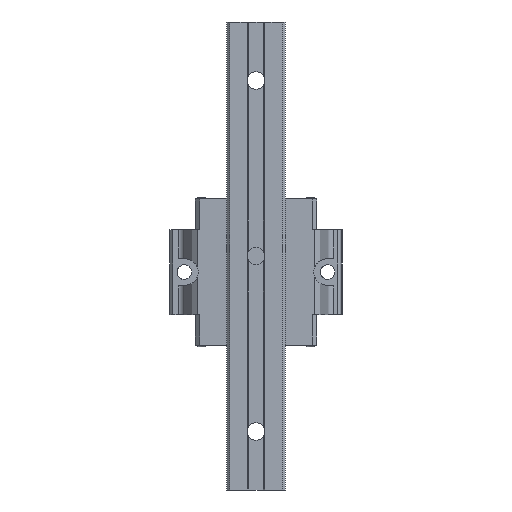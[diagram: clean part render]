
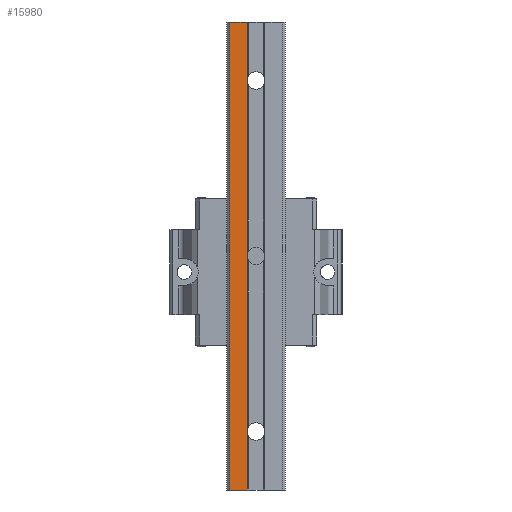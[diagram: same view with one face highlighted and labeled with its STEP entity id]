
A CAD part, front view. The second image highlights one B-rep face of the part: STEP entity #15980.
In plain terms, the highlighted planar face has unit normal (0, -1, 0).
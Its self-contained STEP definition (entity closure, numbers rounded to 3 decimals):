
#36 = EDGE_CURVE ( 'NONE', #8924, #16620, #2779, .T. ) ;
#240 = CARTESIAN_POINT ( 'NONE',  ( -9., -15.5, 100. ) ) ;
#688 = CARTESIAN_POINT ( 'NONE',  ( -3., -15.5, -30. ) ) ;
#923 = DIRECTION ( 'NONE',  ( 0., 0., 1. ) ) ;
#1278 = EDGE_LOOP ( 'NONE', ( #16929, #10708, #4716, #6605, #5688, #10895, #11669 ) ) ;
#1555 = CARTESIAN_POINT ( 'NONE',  ( -3., -15.5, 80. ) ) ;
#1690 = DIRECTION ( 'NONE',  ( 1., 0., 0. ) ) ;
#2122 = DIRECTION ( 'NONE',  ( 0., -1., 0. ) ) ;
#2351 = LINE ( 'NONE', #3709, #4295 ) ;
#2354 = CARTESIAN_POINT ( 'NONE',  ( -3., -15.5, 100. ) ) ;
#2779 = LINE ( 'NONE', #5878, #9983 ) ;
#3181 = VECTOR ( 'NONE', #7389, 1000. ) ;
#3330 = VERTEX_POINT ( 'NONE', #2354 ) ;
#3709 = CARTESIAN_POINT ( 'NONE',  ( -3., -15.5, -30. ) ) ;
#4143 = DIRECTION ( 'NONE',  ( 0., 0., -1. ) ) ;
#4295 = VECTOR ( 'NONE', #923, 1000. ) ;
#4589 = CARTESIAN_POINT ( 'NONE',  ( 0., -15.5, 100. ) ) ;
#4716 = ORIENTED_EDGE ( 'NONE', *, *, #8314, .T. ) ;
#5638 = LINE ( 'NONE', #17374, #3181 ) ;
#5688 = ORIENTED_EDGE ( 'NONE', *, *, #36, .T. ) ;
#5878 = CARTESIAN_POINT ( 'NONE',  ( -3., -15.5, -30. ) ) ;
#6067 = EDGE_CURVE ( 'NONE', #8675, #3330, #8988, .T. ) ;
#6586 = DIRECTION ( 'NONE',  ( 0., 0., -1. ) ) ;
#6605 = ORIENTED_EDGE ( 'NONE', *, *, #6975, .T. ) ;
#6811 = CARTESIAN_POINT ( 'NONE',  ( -3., -15.5, 20. ) ) ;
#6975 = EDGE_CURVE ( 'NONE', #15846, #8924, #13510, .T. ) ;
#6992 = VERTEX_POINT ( 'NONE', #12455 ) ;
#7064 = DIRECTION ( 'NONE',  ( 0., 0., 1. ) ) ;
#7389 = DIRECTION ( 'NONE',  ( 1., 0., 0. ) ) ;
#8314 = EDGE_CURVE ( 'NONE', #6992, #15846, #13220, .T. ) ;
#8523 = CARTESIAN_POINT ( 'NONE',  ( -3., -15.5, -30. ) ) ;
#8675 = VERTEX_POINT ( 'NONE', #240 ) ;
#8924 = VERTEX_POINT ( 'NONE', #6811 ) ;
#8988 = LINE ( 'NONE', #4589, #12544 ) ;
#9289 = DIRECTION ( 'NONE',  ( 0., 0., 1. ) ) ;
#9629 = CARTESIAN_POINT ( 'NONE',  ( -9., -15.5, -60. ) ) ;
#9983 = VECTOR ( 'NONE', #17605, 1000. ) ;
#10708 = ORIENTED_EDGE ( 'NONE', *, *, #11343, .T. ) ;
#10895 = ORIENTED_EDGE ( 'NONE', *, *, #15090, .T. ) ;
#11343 = EDGE_CURVE ( 'NONE', #16486, #6992, #5638, .T. ) ;
#11669 = ORIENTED_EDGE ( 'NONE', *, *, #6067, .F. ) ;
#12455 = CARTESIAN_POINT ( 'NONE',  ( -3., -15.5, -60. ) ) ;
#12544 = VECTOR ( 'NONE', #1690, 1000. ) ;
#13133 = CARTESIAN_POINT ( 'NONE',  ( -9., -15.5, -30. ) ) ;
#13220 = LINE ( 'NONE', #8523, #18742 ) ;
#13510 = LINE ( 'NONE', #688, #17510 ) ;
#14361 = AXIS2_PLACEMENT_3D ( 'NONE', #18133, #2122, #6586 ) ;
#15090 = EDGE_CURVE ( 'NONE', #16620, #3330, #2351, .T. ) ;
#15846 = VERTEX_POINT ( 'NONE', #17461 ) ;
#15980 = ADVANCED_FACE ( 'NONE', ( #16786 ), #16986, .T. ) ;
#16486 = VERTEX_POINT ( 'NONE', #9629 ) ;
#16620 = VERTEX_POINT ( 'NONE', #1555 ) ;
#16786 = FACE_OUTER_BOUND ( 'NONE', #1278, .T. ) ;
#16929 = ORIENTED_EDGE ( 'NONE', *, *, #16972, .T. ) ;
#16972 = EDGE_CURVE ( 'NONE', #8675, #16486, #17345, .T. ) ;
#16986 = PLANE ( 'NONE',  #14361 ) ;
#17149 = VECTOR ( 'NONE', #4143, 1000. ) ;
#17345 = LINE ( 'NONE', #13133, #17149 ) ;
#17374 = CARTESIAN_POINT ( 'NONE',  ( 0., -15.5, -60. ) ) ;
#17461 = CARTESIAN_POINT ( 'NONE',  ( -3., -15.5, -40. ) ) ;
#17510 = VECTOR ( 'NONE', #9289, 1000. ) ;
#17605 = DIRECTION ( 'NONE',  ( 0., 0., 1. ) ) ;
#18133 = CARTESIAN_POINT ( 'NONE',  ( -9., -15.5, -30. ) ) ;
#18742 = VECTOR ( 'NONE', #7064, 1000. ) ;
